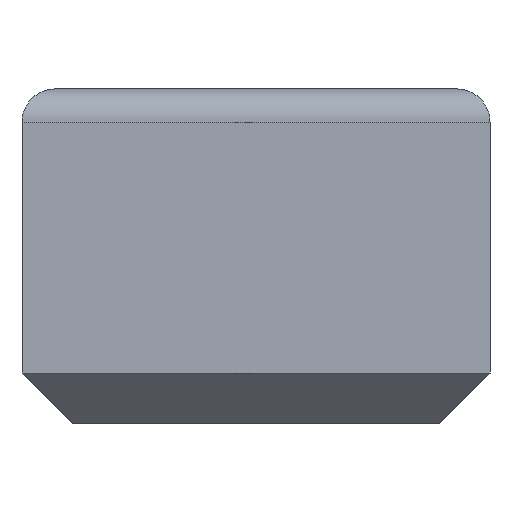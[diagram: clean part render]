
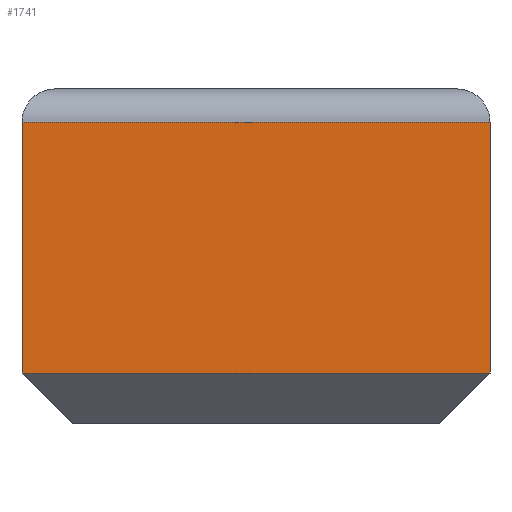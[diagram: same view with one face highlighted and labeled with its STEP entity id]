
A CAD part, front view. The second image highlights one B-rep face of the part: STEP entity #1741.
In plain terms, the highlighted planar face has unit normal (0, -1, 0).
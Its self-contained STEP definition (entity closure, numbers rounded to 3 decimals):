
#52 = EDGE_LOOP ( 'NONE', ( #1101, #635, #1672, #2193 ) ) ;
#88 = VERTEX_POINT ( 'NONE', #1000 ) ;
#169 = CARTESIAN_POINT ( 'NONE',  ( 0., 0., 3. ) ) ;
#171 = LINE ( 'NONE', #699, #1374 ) ;
#172 = LINE ( 'NONE', #1520, #1886 ) ;
#273 = PLANE ( 'NONE',  #1705 ) ;
#460 = VECTOR ( 'NONE', #607, 1000. ) ;
#548 = CARTESIAN_POINT ( 'NONE',  ( 14., 0., 18. ) ) ;
#607 = DIRECTION ( 'NONE',  ( 1., 0., 0. ) ) ;
#635 = ORIENTED_EDGE ( 'NONE', *, *, #857, .F. ) ;
#653 = VECTOR ( 'NONE', #996, 1000. ) ;
#699 = CARTESIAN_POINT ( 'NONE',  ( 28., 0., 10.5 ) ) ;
#857 = EDGE_CURVE ( 'NONE', #2037, #88, #1853, .T. ) ;
#996 = DIRECTION ( 'NONE',  ( 1., 0., 0. ) ) ;
#1000 = CARTESIAN_POINT ( 'NONE',  ( 28., 0., 18. ) ) ;
#1058 = LINE ( 'NONE', #1950, #460 ) ;
#1101 = ORIENTED_EDGE ( 'NONE', *, *, #2612, .T. ) ;
#1374 = VECTOR ( 'NONE', #2267, 1000. ) ;
#1391 = CARTESIAN_POINT ( 'NONE',  ( 0., 0., 0. ) ) ;
#1502 = DIRECTION ( 'NONE',  ( 0., 0., -1. ) ) ;
#1520 = CARTESIAN_POINT ( 'NONE',  ( 0., 0., 10.5 ) ) ;
#1534 = EDGE_CURVE ( 'NONE', #1861, #2037, #172, .T. ) ;
#1672 = ORIENTED_EDGE ( 'NONE', *, *, #1534, .F. ) ;
#1705 = AXIS2_PLACEMENT_3D ( 'NONE', #1391, #2285, #1502 ) ;
#1740 = DIRECTION ( 'NONE',  ( 0., 0., 1. ) ) ;
#1741 = ADVANCED_FACE ( 'NONE', ( #2280 ), #273, .T. ) ;
#1853 = LINE ( 'NONE', #548, #653 ) ;
#1861 = VERTEX_POINT ( 'NONE', #169 ) ;
#1886 = VECTOR ( 'NONE', #1740, 1000. ) ;
#1950 = CARTESIAN_POINT ( 'NONE',  ( 14., 0., 3. ) ) ;
#2037 = VERTEX_POINT ( 'NONE', #2490 ) ;
#2140 = CARTESIAN_POINT ( 'NONE',  ( 28., 0., 3. ) ) ;
#2193 = ORIENTED_EDGE ( 'NONE', *, *, #2415, .T. ) ;
#2267 = DIRECTION ( 'NONE',  ( 0., 0., 1. ) ) ;
#2280 = FACE_OUTER_BOUND ( 'NONE', #52, .T. ) ;
#2285 = DIRECTION ( 'NONE',  ( 0., -1., 0. ) ) ;
#2357 = VERTEX_POINT ( 'NONE', #2140 ) ;
#2415 = EDGE_CURVE ( 'NONE', #1861, #2357, #1058, .T. ) ;
#2490 = CARTESIAN_POINT ( 'NONE',  ( 0., 0., 18. ) ) ;
#2612 = EDGE_CURVE ( 'NONE', #2357, #88, #171, .T. ) ;
